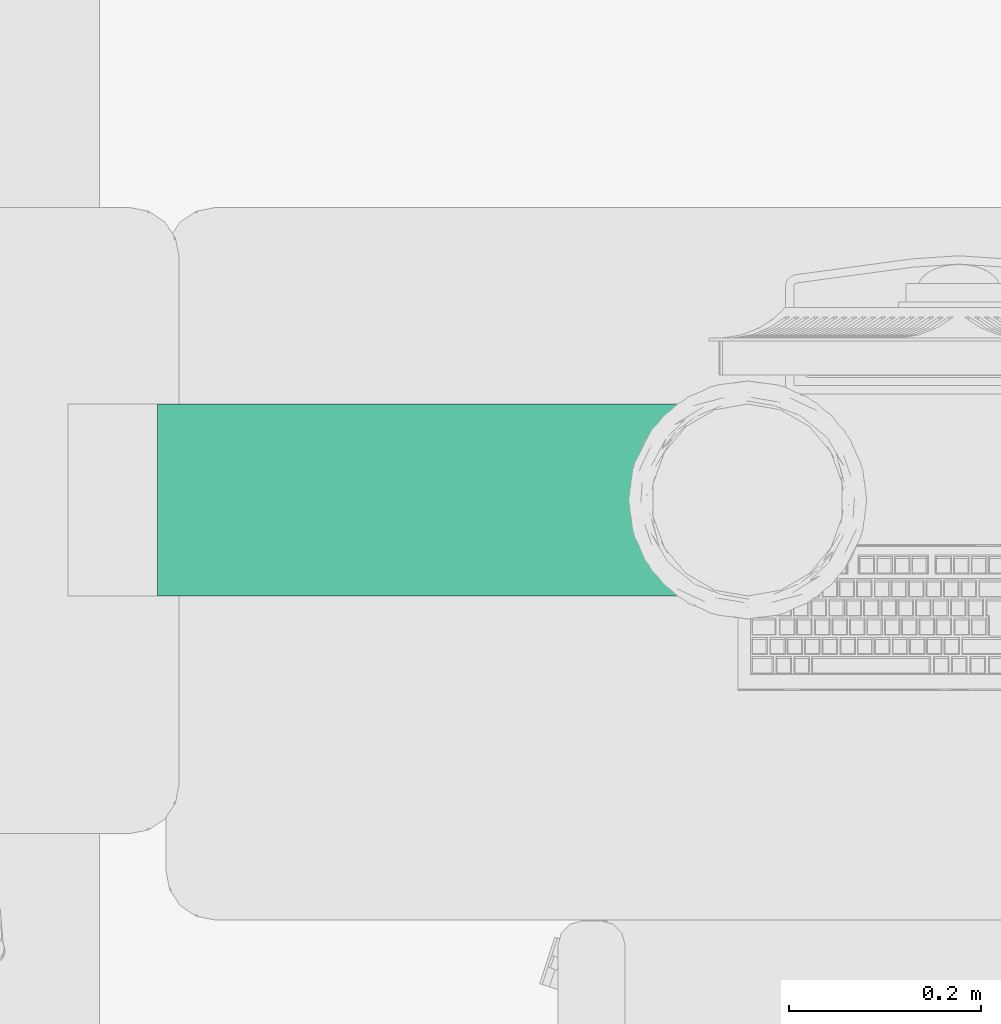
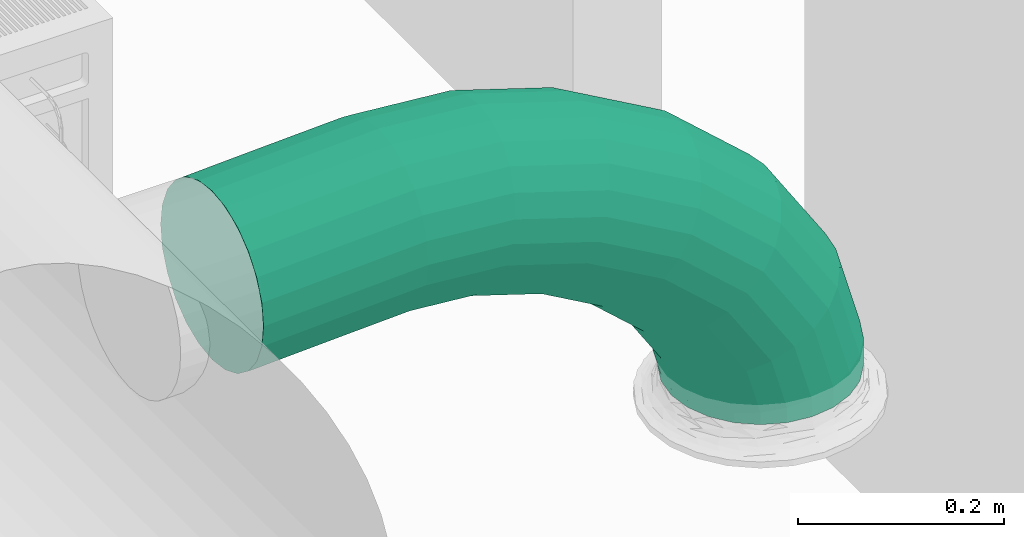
# One storey, part 24 of 31: 1 flow segment.
"""IFC2X3 building model written with IfcOpenShell, lengths in millimetres."""

from ifc_helpers import new_model, entity, si_unit, converted_unit, derived_unit, direction, frame, origin, place, context, subcontext, project, spatial, faceted_brep, type_object, element, save


model = new_model("IFC2X3")

# Units and contexts
model_context = context("Model", 3, precision=0.01, world=origin(), true_north=direction((6.123031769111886e-17, 1.0)))
body_context = subcontext(model_context, "Body", "Model", "MODEL_VIEW")
ifc_project = project(units=[si_unit("LENGTHUNIT", "METRE", prefix="MILLI"), si_unit("AREAUNIT", "SQUARE_METRE"), si_unit("VOLUMEUNIT", "CUBIC_METRE"), converted_unit("PLANEANGLEUNIT", "DEGREE", entity("IfcRatioMeasure", 0.017453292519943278), si_unit("PLANEANGLEUNIT", "RADIAN"), dimensions=[0, 0, 0, 0, 0, 0, 0]), si_unit("MASSUNIT", "GRAM", prefix="KILO"), derived_unit("MASSDENSITYUNIT", [(si_unit("MASSUNIT", "GRAM", prefix="KILO"), 1), (si_unit("LENGTHUNIT", "METRE"), -3)]), derived_unit("MOMENTOFINERTIAUNIT", [(si_unit("LENGTHUNIT", "METRE"), 4)]), si_unit("TIMEUNIT", "SECOND"), si_unit("FREQUENCYUNIT", "HERTZ"), si_unit("THERMODYNAMICTEMPERATUREUNIT", "DEGREE_CELSIUS"), derived_unit("THERMALTRANSMITTANCEUNIT", [(si_unit("MASSUNIT", "GRAM", prefix="KILO"), 1), (si_unit("THERMODYNAMICTEMPERATUREUNIT", "KELVIN"), -1), (si_unit("TIMEUNIT", "SECOND"), -3)]), derived_unit("VOLUMETRICFLOWRATEUNIT", [(si_unit("LENGTHUNIT", "METRE"), 3), (si_unit("TIMEUNIT", "SECOND"), -1)]), derived_unit("MASSFLOWRATEUNIT", [(si_unit("MASSUNIT", "GRAM", prefix="KILO"), 1), (si_unit("TIMEUNIT", "SECOND"), -1)]), derived_unit("ROTATIONALFREQUENCYUNIT", [(si_unit("TIMEUNIT", "SECOND"), -1)]), si_unit("ELECTRICCURRENTUNIT", "AMPERE"), si_unit("ELECTRICVOLTAGEUNIT", "VOLT"), si_unit("POWERUNIT", "WATT"), si_unit("FORCEUNIT", "NEWTON", prefix="KILO"), si_unit("ILLUMINANCEUNIT", "LUX"), si_unit("LUMINOUSFLUXUNIT", "LUMEN"), si_unit("LUMINOUSINTENSITYUNIT", "CANDELA"), derived_unit("USERDEFINED", [(si_unit("MASSUNIT", "GRAM", prefix="KILO"), -1), (si_unit("LENGTHUNIT", "METRE"), -2), (si_unit("TIMEUNIT", "SECOND"), 3), (si_unit("LUMINOUSFLUXUNIT", "LUMEN"), 1)]), derived_unit("SOUNDPOWERUNIT", [(si_unit("MASSUNIT", "GRAM", prefix="KILO"), 1), (si_unit("LENGTHUNIT", "METRE"), 2), (si_unit("TIMEUNIT", "SECOND"), -3)]), derived_unit("SOUNDPRESSUREUNIT", [(si_unit("MASSUNIT", "GRAM", prefix="KILO"), 1), (si_unit("LENGTHUNIT", "METRE"), -1), (si_unit("TIMEUNIT", "SECOND"), -2)]), derived_unit("LINEARVELOCITYUNIT", [(si_unit("LENGTHUNIT", "METRE"), 1), (si_unit("TIMEUNIT", "SECOND"), -1)]), si_unit("PRESSUREUNIT", "PASCAL"), derived_unit("USERDEFINED", [(si_unit("LENGTHUNIT", "METRE"), -2), (si_unit("MASSUNIT", "GRAM", prefix="KILO"), 1), (si_unit("TIMEUNIT", "SECOND"), -2)]), derived_unit("LINEARFORCEUNIT", [(si_unit("MASSUNIT", "GRAM", prefix="KILO"), 1), (si_unit("LENGTHUNIT", "METRE"), 1), (si_unit("TIMEUNIT", "SECOND"), -2), (si_unit("LENGTHUNIT", "METRE"), -1)]), derived_unit("PLANARFORCEUNIT", [(si_unit("MASSUNIT", "GRAM", prefix="KILO"), 1), (si_unit("LENGTHUNIT", "METRE"), 1), (si_unit("TIMEUNIT", "SECOND"), -2), (si_unit("LENGTHUNIT", "METRE"), -2)])], contexts=[model_context])

# Site, building, storey
site_placement = place(None, origin())
site = spatial("IfcSite", under=ifc_project, at=site_placement, Name="Default", CompositionType="ELEMENT")
building_placement = place(site_placement, origin())
building = spatial("IfcBuilding", under=site, at=building_placement, CompositionType="ELEMENT")
storey_placement = place(building_placement, frame((0.0, 0.0, 3880.0)))
storey = spatial("IfcBuildingStorey", under=building, at=storey_placement, Name="Niveau 1", CompositionType="ELEMENT", Elevation=3880.0)

# Flow segment
duct_segment_type = type_object("IfcDuctSegmentType", Name="Gaine flexible circulaire:Souple - Circulaire piquage Aldes", PredefinedType="FLEXIBLESEGMENT")
flow_segment_placement = place(storey_placement, frame((-1935.0, -13031.595272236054, 2827.5000000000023)))
element("IfcFlowSegment", 1, at=flow_segment_placement, inside=storey, type_object=duct_segment_type, Name="Gaine flexible circulaire:Souple - Circulaire piquage Aldes", ObjectType="Gaine flexible circulaire:Souple - Circulaire piquage Aldes", context=body_context, shape_type="Brep", body=[
    faceted_brep([(518.4074173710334, 75.71336772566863, 0.0), (515.0, 101.59527223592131, 0.0), (518.407417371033, 127.47717674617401, 0.0), (528.397459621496, 151.5952722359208, 0.0), (544.2893218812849, 172.30595035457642, 0.0), (565.0, 188.19781261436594, 0.0), (589.1180954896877, 198.18785486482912, 0.0), (615.0, 201.5952722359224, 0.0), (640.8819045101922, 198.18785486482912, 0.0), (665.0, 188.19781261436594, 0.0), (685.7106781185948, 172.30595035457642, 0.0), (701.6025403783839, 151.5952722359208, 0.0), (711.5925826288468, 127.47717674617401, 0.0), (715.0, 101.59527223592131, 0.0), (711.5925826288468, 75.71336772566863, 0.0), (701.6025403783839, 51.59527223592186, 0.0), (685.7106781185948, 30.884594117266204, 0.0), (665.0, 14.992731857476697, 0.0), (640.8819045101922, 5.00268960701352, 0.0), (615.0, 1.5952722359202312, 0.0), (589.1180954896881, 5.00268960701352, 0.0), (565.0, 14.992731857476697, 0.0), (544.2893218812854, 30.884594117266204, 0.0), (528.3974596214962, 51.59527223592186, 0.0), (715.0, 101.59527223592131, 35.18271274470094), (711.5925826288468, 75.71336772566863, 34.70752741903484), (701.6025403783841, 51.59527223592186, 33.31435453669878), (685.7106781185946, 30.884594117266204, 31.098136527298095), (665.0, 14.992731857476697, 28.209904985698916), (640.8819045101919, 5.00268960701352, 24.84648811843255), (615.0, 1.5952722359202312, 21.237097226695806), (589.1180954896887, 5.00268960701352, 17.627706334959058), (565.0, 14.992731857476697, 14.264289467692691), (544.2893218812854, 30.884594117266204, 11.376057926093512), (518.4074173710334, 75.71336772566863, 7.766667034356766), (515.0, 101.59527223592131, 7.291481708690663), (528.397459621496, 51.59527223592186, 9.159839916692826), (528.3974596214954, 151.5952722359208, 9.159839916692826), (544.2893218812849, 172.30595035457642, 11.376057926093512), (518.4074173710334, 127.47717674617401, 7.766667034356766), (589.1180954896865, 198.18785486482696, 17.627706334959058), (615.0, 201.5952722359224, 21.237097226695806), (565.0, 188.19781261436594, 14.264289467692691), (640.8819045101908, 198.18785486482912, 24.84648811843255), (665.0, 188.19781261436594, 28.209904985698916), (685.710678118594, 172.30595035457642, 31.098136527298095), (701.6025403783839, 151.5952722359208, 33.31435453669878), (711.5925826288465, 127.47717674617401, 34.70752741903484), (0.0, 198.1878548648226, 296.6180954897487), (0.0, 188.19781261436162, 272.50000000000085), (0.0, 172.3059503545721, 251.7893218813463), (0.0, 151.59527223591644, 235.89745962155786), (0.0, 127.47717674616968, 225.90741737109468), (0.0, 101.595272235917, 222.5000000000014), (0.0, 75.7133677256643, 225.90741737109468), (0.0, 51.59527223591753, 235.89745962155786), (0.0, 30.884594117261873, 251.78932188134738), (0.0, 14.992731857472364, 272.50000000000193), (0.0, 5.002689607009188, 296.6180954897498), (0.0, 1.5952722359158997, 322.5000000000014), (0.0, 5.002689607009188, 348.38190451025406), (0.0, 14.992731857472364, 372.50000000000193), (0.0, 30.884594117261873, 393.2106781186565), (0.0, 51.59527223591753, 409.1025403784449), (0.0, 75.7133677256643, 419.09258262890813), (0.0, 101.595272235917, 422.5000000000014), (0.0, 127.47717674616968, 419.09258262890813), (0.0, 151.59527223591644, 409.1025403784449), (0.0, 172.3059503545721, 393.2106781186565), (0.0, 188.19781261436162, 372.50000000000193), (0.0, 198.1878548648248, 348.38190451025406), (0.0, 201.5952722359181, 322.5000000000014), (687.5307717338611, 101.59527223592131, 131.75430598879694), (684.3928311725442, 75.71336772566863, 130.33174039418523), (675.1928549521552, 51.59527223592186, 126.16098910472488), (660.5578062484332, 30.884594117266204, 119.52628192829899), (641.4850394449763, 14.992731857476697, 110.87976319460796), (619.2743320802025, 5.00268960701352, 100.8106788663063), (595.4393071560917, 1.5952722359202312, 90.00522040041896), (571.6042822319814, 5.00268960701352, 79.19976193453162), (549.3935748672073, 14.992731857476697, 69.13067760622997), (530.3208080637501, 30.884594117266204, 60.48415887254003), (515.685759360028, 51.59527223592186, 53.84945169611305), (506.48578313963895, 75.71336772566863, 49.67870040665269), (503.3478425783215, 101.59527223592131, 48.25613481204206), (506.48578313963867, 127.47717674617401, 49.67870040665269), (515.6857593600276, 151.5952722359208, 53.84945169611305), (530.3208080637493, 172.30595035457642, 60.48415887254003), (571.6042822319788, 198.18785486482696, 79.19976193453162), (595.4393071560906, 201.5952722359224, 90.00522040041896), (549.3935748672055, 188.19781261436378, 69.13067760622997), (619.2743320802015, 198.18785486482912, 100.81067886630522), (641.4850394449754, 188.19781261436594, 110.87976319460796), (660.5578062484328, 172.30595035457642, 119.5262819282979), (675.1928549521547, 151.5952722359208, 126.16098910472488), (684.3928311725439, 127.47717674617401, 130.33174039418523), (619.592744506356, 101.59527223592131, 236.78805684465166), (616.978979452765, 75.71336772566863, 234.5551038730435), (609.3158080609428, 51.59527223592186, 228.00841701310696), (597.125462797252, 30.884594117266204, 217.59414215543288), (581.2386955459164, 14.992731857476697, 204.02199492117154), (562.7381632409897, 5.00268960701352, 188.2168947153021), (542.8846465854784, 1.5952722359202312, 171.25593299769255), (523.0311299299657, 5.002689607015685, 154.2949712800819), (504.5305976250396, 14.992731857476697, 138.48987107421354), (488.64383037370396, 30.884594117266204, 124.91772383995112), (476.4534851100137, 51.59527223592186, 114.50344898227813), (468.7903137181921, 75.71336772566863, 107.95676212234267), (466.1765486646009, 101.59527223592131, 105.72380915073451), (468.79031371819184, 127.47717674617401, 107.95676212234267), (476.45348511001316, 151.59527223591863, 114.50344898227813), (488.64383037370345, 172.30595035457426, 124.91772383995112), (523.0311299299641, 198.18785486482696, 154.2949712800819), (542.8846465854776, 201.5952722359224, 171.25593299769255), (504.53059762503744, 188.19781261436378, 138.48987107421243), (562.7381632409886, 198.18785486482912, 188.21689471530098), (581.2386955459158, 188.19781261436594, 204.02199492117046), (597.1254627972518, 172.3059503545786, 217.5941421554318), (609.3158080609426, 151.59527223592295, 228.00841701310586), (616.978979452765, 127.47717674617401, 234.5551038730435), (525.266642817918, 101.59527223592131, 321.36487574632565), (523.2651429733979, 75.71336772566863, 318.58293958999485), (517.3970423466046, 51.59527223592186, 310.4267154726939), (508.06224229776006, 30.884594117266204, 297.4520365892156), (495.89689402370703, 14.992731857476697, 280.5431058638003), (481.7300459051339, 5.00268960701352, 260.85223898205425), (466.52714522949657, 1.5952722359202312, 239.7213359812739), (451.3242445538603, 5.00268960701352, 218.59043298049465), (437.15739643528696, 14.992731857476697, 198.89956609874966), (424.99204816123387, 30.884594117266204, 181.9906353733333), (415.65724811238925, 51.59527223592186, 169.015956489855), (409.7891474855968, 75.71336772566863, 160.85973237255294), (407.7876476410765, 101.59527223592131, 158.07779621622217), (409.7891474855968, 127.47717674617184, 160.85973237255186), (415.6572481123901, 151.5952722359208, 169.01595648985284), (424.9920481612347, 172.30595035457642, 181.9906353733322), (451.3242445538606, 198.18785486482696, 218.59043298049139), (466.52714522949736, 201.5952722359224, 239.72133598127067), (437.15739643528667, 188.19781261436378, 198.89956609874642), (481.7300459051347, 198.18785486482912, 260.8522389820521), (495.89689402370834, 188.19781261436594, 280.54310586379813), (508.06224229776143, 172.30595035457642, 297.45203658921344), (517.3970423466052, 151.5952722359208, 310.4267154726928), (523.2651429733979, 127.47717674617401, 318.58293958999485), (415.8954382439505, 101.59527223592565, 383.4622041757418), (414.5209709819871, 75.71336772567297, 380.3242597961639), (410.4912368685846, 51.59527223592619, 371.12427238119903), (404.0808556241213, 30.884594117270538, 356.4892058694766), (395.72668413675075, 14.992731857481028, 337.4164158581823), (385.99804538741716, 5.002689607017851, 315.205681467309), (375.5579300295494, 1.5952722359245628, 291.3706275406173), (365.11781467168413, 5.002689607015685, 267.5355736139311), (355.38917592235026, 14.992731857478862, 245.32483922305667), (347.0350044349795, 30.88459411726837, 226.25204921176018), (340.6246231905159, 51.59527223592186, 211.61698270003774), (336.5948890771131, 75.71336772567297, 202.41699528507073), (335.2204218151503, 101.59527223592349, 199.27905090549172), (336.594889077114, 127.47717674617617, 202.41699528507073), (340.62462319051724, 151.5952722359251, 211.61698270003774), (347.03500443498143, 172.3059503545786, 226.25204921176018), (365.1178146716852, 198.18785486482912, 267.5355736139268), (375.5579300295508, 201.5952722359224, 291.3706275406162), (355.38917592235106, 188.1978126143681, 245.3248392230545), (385.99804538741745, 198.18785486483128, 315.2056814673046), (395.72668413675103, 188.1978126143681, 337.41641585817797), (404.080855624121, 172.3059503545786, 356.4892058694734), (410.49123686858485, 151.5952722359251, 371.1242723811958), (414.5209709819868, 127.47717674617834, 380.32425979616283), (299.1351552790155, 101.59527223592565, 420.774184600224), (298.4547953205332, 75.71336772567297, 417.4144309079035), (296.4600808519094, 51.59527223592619, 407.5641314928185), (293.28694836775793, 30.884594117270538, 391.89456798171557), (289.1516416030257, 14.992731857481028, 371.4735952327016), (284.33597487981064, 5.002689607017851, 347.69286879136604), (279.16812792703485, 1.5952722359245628, 322.1730058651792), (274.00028097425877, 5.002689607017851, 296.65314293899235), (269.1846142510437, 14.992731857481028, 272.87241649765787), (265.0493074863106, 30.884594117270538, 252.45144374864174), (261.8761750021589, 51.59527223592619, 236.7818802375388), (259.88146053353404, 75.71336772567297, 226.93158082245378), (259.20110057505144, 101.59527223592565, 223.57182713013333), (259.88146053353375, 127.47717674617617, 226.93158082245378), (261.8761750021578, 151.5952722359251, 236.7818802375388), (265.04930748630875, 172.3059503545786, 252.45144374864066), (274.0002809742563, 198.18785486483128, 296.65314293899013), (279.16812792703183, 201.59527223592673, 322.173005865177), (269.18461425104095, 188.1978126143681, 272.8724164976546), (284.3359748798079, 198.18785486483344, 347.69286879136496), (289.15164160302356, 188.19781261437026, 371.4735952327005), (293.28694836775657, 172.30595035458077, 391.89456798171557), (296.4600808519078, 151.5952722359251, 407.5641314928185), (298.45479532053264, 127.47717674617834, 417.4144309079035), (187.10010154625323, 101.59527223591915, 430.9182949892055), (187.0211458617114, 75.71336772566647, 427.5040877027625), (186.78965950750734, 51.59527223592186, 417.4941384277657), (186.4214178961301, 30.884594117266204, 401.570608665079), (185.94151608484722, 14.992731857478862, 380.81866065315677), (185.38265858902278, 5.002689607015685, 356.6525053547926), (184.78293062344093, 1.5952722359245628, 330.7190263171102), (184.18320265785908, 5.002689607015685, 304.78554727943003), (183.6243451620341, 14.992731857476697, 280.6193919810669), (183.14444335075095, 30.884594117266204, 259.8674439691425), (182.7762017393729, 51.595272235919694, 243.94391420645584), (182.5447153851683, 75.71336772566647, 233.93396493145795), (182.46575970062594, 101.59527223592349, 230.51975764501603), (182.54471538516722, 127.47717674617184, 233.9339649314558), (182.77620173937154, 151.59527223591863, 243.9439142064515), (183.1444433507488, 172.30595035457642, 259.86744396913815), (184.18320265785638, 198.18785486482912, 304.78554727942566), (184.7829306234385, 201.5952722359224, 330.7190263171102), (183.6243451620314, 188.19781261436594, 280.6193919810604), (185.38265858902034, 198.18785486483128, 356.6525053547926), (185.94151608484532, 188.19781261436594, 380.81866065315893), (186.42141789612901, 172.30595035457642, 401.57060866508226), (186.78965950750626, 151.5952722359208, 417.4941384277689), (187.02114586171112, 127.47717674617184, 427.50408770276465), (87.82811717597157, 101.595272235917, 426.5420520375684), (87.98341445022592, 75.7133677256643, 423.13817140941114), (88.43872302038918, 51.59527223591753, 413.15849836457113), (89.16301435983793, 30.88459411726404, 397.28313112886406), (90.10692921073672, 14.992731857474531, 376.5939497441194), (91.20614133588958, 5.002689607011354, 352.5008877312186), (92.38574124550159, 1.5952722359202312, 326.6458474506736), (93.56534115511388, 5.002689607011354, 300.7908071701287), (94.66455328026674, 14.992731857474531, 276.69774515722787), (95.60846813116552, 30.88459411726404, 256.0085637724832), (96.33275947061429, 51.59527223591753, 240.13319653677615), (96.78806804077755, 75.7133677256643, 230.1535234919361), (96.9433653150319, 101.59527223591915, 226.7496428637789), (96.78806804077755, 127.47717674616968, 230.15352349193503), (96.33275947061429, 151.59527223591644, 240.13319653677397), (95.60846813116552, 172.3059503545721, 256.00856377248), (93.56534115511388, 198.1878548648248, 300.79080717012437), (92.38574124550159, 201.5952722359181, 326.64584745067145), (94.66455328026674, 188.19781261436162, 276.69774515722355), (91.20614133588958, 198.18785486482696, 352.5008877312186), (90.10692921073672, 188.19781261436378, 376.5939497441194), (89.16301435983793, 172.30595035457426, 397.2831311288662), (88.43872302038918, 151.59527223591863, 413.1584983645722), (87.98341445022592, 127.47717674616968, 423.13817140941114), (2.2064455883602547, 75.7133677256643, 419.09258262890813), (2.4419001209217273, 51.59527223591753, 409.1025403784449), (2.126136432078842, 101.595272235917, 422.5000000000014), (2.816454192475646, 30.884594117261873, 393.21067811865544), (3.8730200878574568, 5.002689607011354, 348.38190451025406), (4.483028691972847, 1.5952722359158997, 322.5000000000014), (3.304582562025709, 14.992731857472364, 372.50000000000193), (5.093037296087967, 5.002689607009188, 296.6180954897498), (5.661474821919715, 14.992731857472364, 272.50000000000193), (6.149603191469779, 30.884594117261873, 251.78932188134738), (6.524157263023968, 51.59527223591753, 235.89745962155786), (6.759611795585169, 75.7133677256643, 225.90741737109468), (6.839920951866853, 101.595272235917, 222.5000000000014), (6.759611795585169, 127.47717674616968, 225.90741737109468), (6.524157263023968, 151.59527223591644, 235.89745962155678), (6.149603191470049, 172.3059503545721, 251.7893218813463), (5.661474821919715, 188.19781261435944, 272.4999999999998), (5.093037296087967, 198.1878548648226, 296.61809548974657), (4.483028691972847, 201.5952722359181, 322.49999999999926), (3.8730200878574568, 198.1878548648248, 348.3819045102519), (3.304582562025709, 188.19781261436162, 372.4999999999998), (2.816454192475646, 172.3059503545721, 393.21067811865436), (2.4419001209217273, 151.59527223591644, 409.1025403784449), (2.2064455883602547, 127.47717674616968, 419.09258262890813)], [[[0, 1, 2, 3, 4, 5, 6, 7, 8, 9, 10, 11, 12, 13, 14, 15, 16, 17, 18, 19, 20, 21, 22, 23]], [[13, 24, 25, 14]], [[14, 25, 26, 15]], [[15, 26, 27, 16]], [[17, 28, 29, 18]], [[18, 29, 30, 19]], [[16, 27, 28, 17]], [[31, 32, 21, 20]], [[30, 31, 20, 19]], [[21, 32, 33, 22]], [[34, 35, 1, 0]], [[36, 34, 0, 23]], [[22, 33, 36, 23]], [[3, 37, 38, 4]], [[39, 37, 3, 2]], [[1, 35, 39, 2]], [[40, 41, 7, 6]], [[42, 40, 6, 5]], [[38, 42, 5, 4]], [[9, 8, 43, 44]], [[10, 9, 44, 45]], [[7, 41, 43, 8]], [[12, 11, 46, 47]], [[13, 12, 47, 24]], [[45, 46, 11, 10]], [[48, 49, 50, 51, 52, 53, 54, 55, 56, 57, 58, 59, 60, 61, 62, 63, 64, 65, 66, 67, 68, 69, 70, 71]], [[24, 72, 73, 25]], [[25, 73, 74, 26]], [[26, 74, 75, 27]], [[27, 75, 76, 28]], [[28, 76, 77, 29]], [[78, 30, 29, 77]], [[79, 80, 32, 31]], [[78, 79, 31, 30]], [[81, 33, 32, 80]], [[82, 83, 34, 36]], [[82, 36, 33, 81]], [[84, 35, 34, 83]], [[85, 86, 37, 39]], [[84, 85, 39, 35]], [[38, 37, 86, 87]], [[88, 89, 41, 40]], [[90, 88, 40, 42]], [[87, 90, 42, 38]], [[43, 41, 89, 91]], [[44, 43, 91, 92]], [[45, 44, 92, 93]], [[47, 46, 94, 95]], [[24, 47, 95, 72]], [[93, 94, 46, 45]], [[73, 72, 96, 97]], [[74, 73, 97, 98]], [[98, 99, 75, 74]], [[76, 75, 99, 100]], [[77, 76, 100, 101]], [[78, 77, 101, 102]], [[103, 104, 80, 79]], [[102, 103, 79, 78]], [[81, 80, 104, 105]], [[106, 107, 83, 82]], [[105, 106, 82, 81]], [[84, 83, 107, 108]], [[109, 110, 86, 85]], [[108, 109, 85, 84]], [[111, 87, 86, 110]], [[112, 113, 89, 88]], [[114, 112, 88, 90]], [[114, 90, 87, 111]], [[89, 113, 115, 91]], [[91, 115, 116, 92]], [[117, 93, 92, 116]], [[94, 118, 119, 95]], [[95, 119, 96, 72]], [[118, 94, 93, 117]], [[97, 96, 120, 121]], [[98, 97, 121, 122]], [[122, 123, 99, 98]], [[100, 99, 123, 124]], [[101, 100, 124, 125]], [[102, 101, 125, 126]], [[127, 128, 104, 103]], [[126, 127, 103, 102]], [[105, 104, 128, 129]], [[130, 131, 107, 106]], [[129, 130, 106, 105]], [[108, 107, 131, 132]], [[133, 134, 110, 109]], [[132, 133, 109, 108]], [[135, 111, 110, 134]], [[136, 137, 113, 112]], [[138, 136, 112, 114]], [[138, 114, 111, 135]], [[113, 137, 139, 115]], [[115, 139, 140, 116]], [[141, 117, 116, 140]], [[118, 142, 143, 119]], [[119, 143, 120, 96]], [[142, 118, 117, 141]], [[121, 120, 144, 145]], [[122, 121, 145, 146]], [[146, 147, 123, 122]], [[124, 123, 147, 148]], [[125, 124, 148, 149]], [[126, 125, 149, 150]], [[151, 152, 128, 127]], [[150, 151, 127, 126]], [[129, 128, 152, 153]], [[154, 155, 131, 130]], [[153, 154, 130, 129]], [[132, 131, 155, 156]], [[157, 158, 134, 133]], [[156, 157, 133, 132]], [[159, 135, 134, 158]], [[160, 161, 137, 136]], [[162, 160, 136, 138]], [[162, 138, 135, 159]], [[137, 161, 163, 139]], [[139, 163, 164, 140]], [[165, 141, 140, 164]], [[142, 166, 167, 143]], [[143, 167, 144, 120]], [[166, 142, 141, 165]], [[144, 168, 169, 145]], [[145, 169, 170, 146]], [[146, 170, 171, 147]], [[147, 171, 172, 148]], [[148, 172, 173, 149]], [[174, 150, 149, 173]], [[175, 176, 152, 151]], [[174, 175, 151, 150]], [[177, 153, 152, 176]], [[178, 179, 155, 154]], [[178, 154, 153, 177]], [[180, 156, 155, 179]], [[181, 182, 158, 157]], [[180, 181, 157, 156]], [[159, 158, 182, 183]], [[184, 185, 161, 160]], [[186, 184, 160, 162]], [[183, 186, 162, 159]], [[163, 161, 185, 187]], [[164, 163, 187, 188]], [[165, 164, 188, 189]], [[167, 166, 190, 191]], [[144, 167, 191, 168]], [[189, 190, 166, 165]], [[169, 168, 192, 193]], [[170, 169, 193, 194]], [[194, 195, 171, 170]], [[172, 171, 195, 196]], [[173, 172, 196, 197]], [[174, 173, 197, 198]], [[199, 200, 176, 175]], [[198, 199, 175, 174]], [[177, 176, 200, 201]], [[202, 203, 179, 178]], [[201, 202, 178, 177]], [[180, 179, 203, 204]], [[205, 206, 182, 181]], [[204, 205, 181, 180]], [[207, 183, 182, 206]], [[208, 209, 185, 184]], [[210, 208, 184, 186]], [[210, 186, 183, 207]], [[185, 209, 211, 187]], [[187, 211, 212, 188]], [[213, 189, 188, 212]], [[190, 214, 215, 191]], [[191, 215, 192, 168]], [[214, 190, 189, 213]], [[193, 192, 216, 217]], [[194, 193, 217, 218]], [[218, 219, 195, 194]], [[196, 195, 219, 220]], [[197, 196, 220, 221]], [[198, 197, 221, 222]], [[223, 224, 200, 199]], [[222, 223, 199, 198]], [[201, 200, 224, 225]], [[226, 227, 203, 202]], [[225, 226, 202, 201]], [[204, 203, 227, 228]], [[229, 230, 206, 205]], [[228, 229, 205, 204]], [[231, 207, 206, 230]], [[232, 233, 209, 208]], [[234, 232, 208, 210]], [[234, 210, 207, 231]], [[209, 233, 235, 211]], [[211, 235, 236, 212]], [[237, 213, 212, 236]], [[214, 238, 239, 215]], [[215, 239, 216, 192]], [[238, 214, 213, 237]], [[240, 241, 218, 217]], [[242, 240, 217, 216]], [[241, 243, 219, 218]], [[244, 245, 222, 221]], [[246, 244, 221, 220]], [[243, 246, 220, 219]], [[223, 222, 245, 247]], [[224, 223, 247, 248]], [[225, 224, 248, 249]], [[227, 226, 250, 251]], [[228, 227, 251, 252]], [[249, 250, 226, 225]], [[228, 252, 253, 229]], [[229, 253, 254, 230]], [[255, 231, 230, 254]], [[231, 255, 256, 234]], [[234, 256, 257, 232]], [[258, 233, 232, 257]], [[259, 260, 236, 235]], [[258, 259, 235, 233]], [[261, 237, 236, 260]], [[262, 263, 239, 238]], [[262, 238, 237, 261]], [[242, 216, 239, 263]], [[242, 65, 64, 240]], [[240, 64, 63, 241]], [[241, 63, 62, 243]], [[60, 59, 245, 244]], [[61, 60, 244, 246]], [[246, 243, 62, 61]], [[245, 59, 58, 247]], [[247, 58, 57, 248]], [[248, 57, 56, 249]], [[250, 55, 54, 251]], [[251, 54, 53, 252]], [[249, 56, 55, 250]], [[253, 252, 53, 52]], [[254, 253, 52, 51]], [[255, 254, 51, 50]], [[257, 256, 49, 48]], [[258, 257, 48, 71]], [[50, 49, 256, 255]], [[259, 258, 71, 70]], [[260, 259, 70, 69]], [[261, 260, 69, 68]], [[263, 262, 67, 66]], [[242, 263, 66, 65]], [[261, 68, 67, 262]]]),
])

save(model, "model.ifc")
